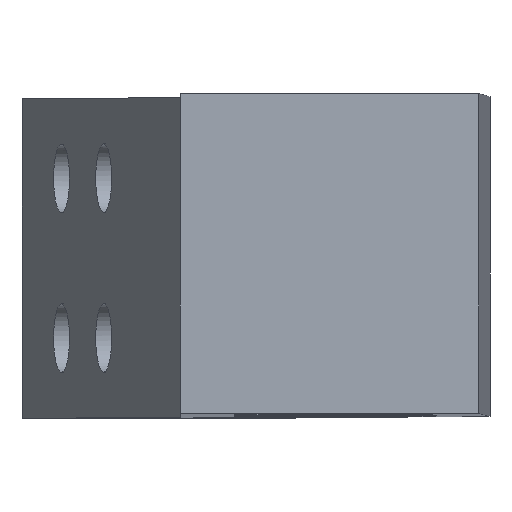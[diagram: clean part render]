
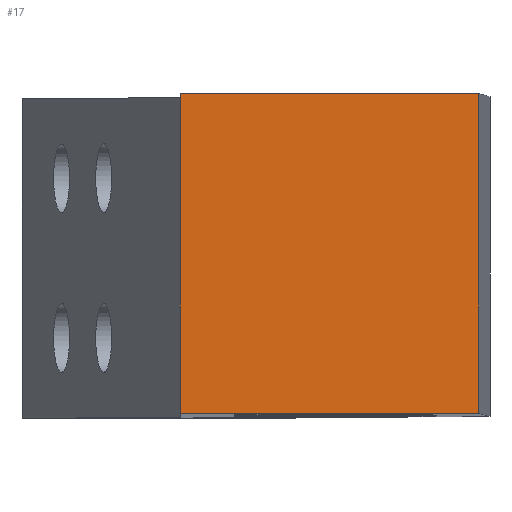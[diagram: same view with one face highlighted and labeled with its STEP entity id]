
A CAD part, top view. The second image highlights one B-rep face of the part: STEP entity #17.
In plain terms, the highlighted planar face has unit normal (0, 0, 1).
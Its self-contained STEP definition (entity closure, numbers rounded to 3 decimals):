
#17 = ADVANCED_FACE('',(#18),#32,.F.);
#18 = FACE_BOUND('',#19,.F.);
#19 = EDGE_LOOP('',(#20,#55,#83,#111));
#20 = ORIENTED_EDGE('',*,*,#21,.T.);
#21 = EDGE_CURVE('',#22,#24,#26,.T.);
#22 = VERTEX_POINT('',#23);
#23 = CARTESIAN_POINT('',(-3.074,-7.,-18.));
#24 = VERTEX_POINT('',#25);
#25 = CARTESIAN_POINT('',(-3.074,7.,-18.));
#26 = SURFACE_CURVE('',#27,(#31,#43),.PCURVE_S1.);
#27 = LINE('',#28,#29);
#28 = CARTESIAN_POINT('',(-3.074,-7.,-18.));
#29 = VECTOR('',#30,1.);
#30 = DIRECTION('',(-0.,1.,-0.));
#31 = PCURVE('',#32,#37);
#32 = PLANE('',#33);
#33 = AXIS2_PLACEMENT_3D('',#34,#35,#36);
#34 = CARTESIAN_POINT('',(-3.074,-7.,-18.));
#35 = DIRECTION('',(0.,0.,-1.));
#36 = DIRECTION('',(1.,0.,0.));
#37 = DEFINITIONAL_REPRESENTATION('',(#38),#42);
#38 = LINE('',#39,#40);
#39 = CARTESIAN_POINT('',(0.,0.));
#40 = VECTOR('',#41,1.);
#41 = DIRECTION('',(0.,-1.));
#42 = ( GEOMETRIC_REPRESENTATION_CONTEXT(2) 
PARAMETRIC_REPRESENTATION_CONTEXT() REPRESENTATION_CONTEXT('2D SPACE',''
  ) );
#43 = PCURVE('',#44,#49);
#44 = PLANE('',#45);
#45 = AXIS2_PLACEMENT_3D('',#46,#47,#48);
#46 = CARTESIAN_POINT('',(-3.074,-7.,-118.5));
#47 = DIRECTION('',(1.,0.,-0.));
#48 = DIRECTION('',(0.,0.,1.));
#49 = DEFINITIONAL_REPRESENTATION('',(#50),#54);
#50 = LINE('',#51,#52);
#51 = CARTESIAN_POINT('',(100.5,0.));
#52 = VECTOR('',#53,1.);
#53 = DIRECTION('',(0.,-1.));
#54 = ( GEOMETRIC_REPRESENTATION_CONTEXT(2) 
PARAMETRIC_REPRESENTATION_CONTEXT() REPRESENTATION_CONTEXT('2D SPACE',''
  ) );
#55 = ORIENTED_EDGE('',*,*,#56,.T.);
#56 = EDGE_CURVE('',#24,#57,#59,.T.);
#57 = VERTEX_POINT('',#58);
#58 = CARTESIAN_POINT('',(10.,7.,-18.));
#59 = SURFACE_CURVE('',#60,(#64,#71),.PCURVE_S1.);
#60 = LINE('',#61,#62);
#61 = CARTESIAN_POINT('',(-3.074,7.,-18.));
#62 = VECTOR('',#63,1.);
#63 = DIRECTION('',(1.,0.,0.));
#64 = PCURVE('',#32,#65);
#65 = DEFINITIONAL_REPRESENTATION('',(#66),#70);
#66 = LINE('',#67,#68);
#67 = CARTESIAN_POINT('',(0.,-14.));
#68 = VECTOR('',#69,1.);
#69 = DIRECTION('',(1.,0.));
#70 = ( GEOMETRIC_REPRESENTATION_CONTEXT(2) 
PARAMETRIC_REPRESENTATION_CONTEXT() REPRESENTATION_CONTEXT('2D SPACE',''
  ) );
#71 = PCURVE('',#72,#77);
#72 = PLANE('',#73);
#73 = AXIS2_PLACEMENT_3D('',#74,#75,#76);
#74 = CARTESIAN_POINT('',(1.967,7.,-82.382));
#75 = DIRECTION('',(0.,1.,0.));
#76 = DIRECTION('',(0.,-0.,1.));
#77 = DEFINITIONAL_REPRESENTATION('',(#78),#82);
#78 = LINE('',#79,#80);
#79 = CARTESIAN_POINT('',(64.382,-5.041));
#80 = VECTOR('',#81,1.);
#81 = DIRECTION('',(0.,1.));
#82 = ( GEOMETRIC_REPRESENTATION_CONTEXT(2) 
PARAMETRIC_REPRESENTATION_CONTEXT() REPRESENTATION_CONTEXT('2D SPACE',''
  ) );
#83 = ORIENTED_EDGE('',*,*,#84,.F.);
#84 = EDGE_CURVE('',#85,#57,#87,.T.);
#85 = VERTEX_POINT('',#86);
#86 = CARTESIAN_POINT('',(10.,-7.,-18.));
#87 = SURFACE_CURVE('',#88,(#92,#99),.PCURVE_S1.);
#88 = LINE('',#89,#90);
#89 = CARTESIAN_POINT('',(10.,-7.,-18.));
#90 = VECTOR('',#91,1.);
#91 = DIRECTION('',(-0.,1.,-0.));
#92 = PCURVE('',#32,#93);
#93 = DEFINITIONAL_REPRESENTATION('',(#94),#98);
#94 = LINE('',#95,#96);
#95 = CARTESIAN_POINT('',(13.074,0.));
#96 = VECTOR('',#97,1.);
#97 = DIRECTION('',(0.,-1.));
#98 = ( GEOMETRIC_REPRESENTATION_CONTEXT(2) 
PARAMETRIC_REPRESENTATION_CONTEXT() REPRESENTATION_CONTEXT('2D SPACE',''
  ) );
#99 = PCURVE('',#100,#105);
#100 = PLANE('',#101);
#101 = AXIS2_PLACEMENT_3D('',#102,#103,#104);
#102 = CARTESIAN_POINT('',(10.,-7.,-18.));
#103 = DIRECTION('',(-1.,-0.,-0.006));
#104 = DIRECTION('',(0.006,0.,-1.));
#105 = DEFINITIONAL_REPRESENTATION('',(#106),#110);
#106 = LINE('',#107,#108);
#107 = CARTESIAN_POINT('',(0.,0.));
#108 = VECTOR('',#109,1.);
#109 = DIRECTION('',(0.,-1.));
#110 = ( GEOMETRIC_REPRESENTATION_CONTEXT(2) 
PARAMETRIC_REPRESENTATION_CONTEXT() REPRESENTATION_CONTEXT('2D SPACE',''
  ) );
#111 = ORIENTED_EDGE('',*,*,#112,.F.);
#112 = EDGE_CURVE('',#22,#85,#113,.T.);
#113 = SURFACE_CURVE('',#114,(#118,#125),.PCURVE_S1.);
#114 = LINE('',#115,#116);
#115 = CARTESIAN_POINT('',(-3.074,-7.,-18.));
#116 = VECTOR('',#117,1.);
#117 = DIRECTION('',(1.,0.,0.));
#118 = PCURVE('',#32,#119);
#119 = DEFINITIONAL_REPRESENTATION('',(#120),#124);
#120 = LINE('',#121,#122);
#121 = CARTESIAN_POINT('',(0.,0.));
#122 = VECTOR('',#123,1.);
#123 = DIRECTION('',(1.,0.));
#124 = ( GEOMETRIC_REPRESENTATION_CONTEXT(2) 
PARAMETRIC_REPRESENTATION_CONTEXT() REPRESENTATION_CONTEXT('2D SPACE',''
  ) );
#125 = PCURVE('',#126,#131);
#126 = PLANE('',#127);
#127 = AXIS2_PLACEMENT_3D('',#128,#129,#130);
#128 = CARTESIAN_POINT('',(1.967,-7.,-82.382));
#129 = DIRECTION('',(0.,1.,0.));
#130 = DIRECTION('',(0.,-0.,1.));
#131 = DEFINITIONAL_REPRESENTATION('',(#132),#136);
#132 = LINE('',#133,#134);
#133 = CARTESIAN_POINT('',(64.382,-5.041));
#134 = VECTOR('',#135,1.);
#135 = DIRECTION('',(0.,1.));
#136 = ( GEOMETRIC_REPRESENTATION_CONTEXT(2) 
PARAMETRIC_REPRESENTATION_CONTEXT() REPRESENTATION_CONTEXT('2D SPACE',''
  ) );
